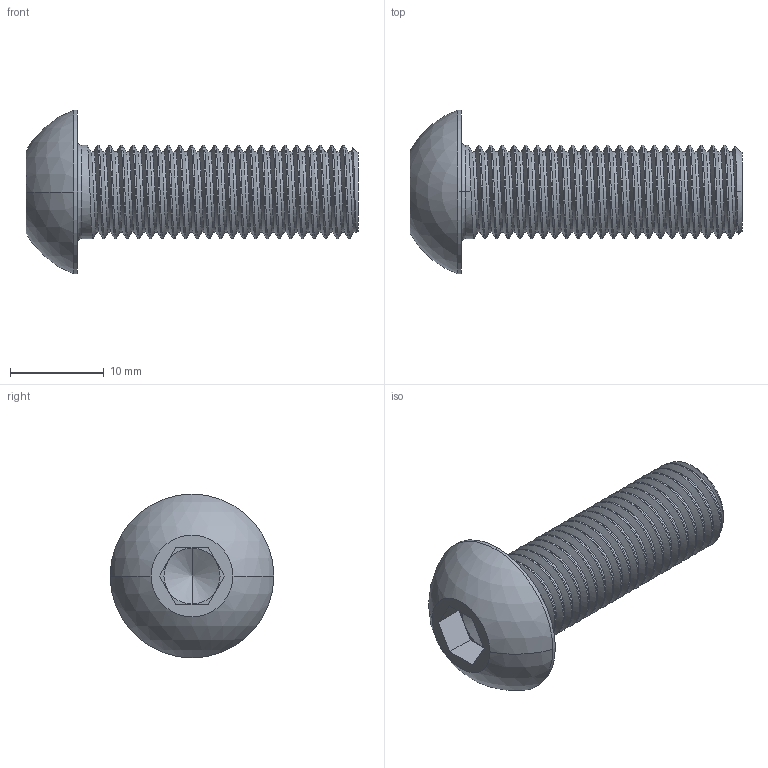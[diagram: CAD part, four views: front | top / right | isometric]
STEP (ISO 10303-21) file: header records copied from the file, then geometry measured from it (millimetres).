
FILE_DESCRIPTION (( 'STEP AP214' ), '1' );
FILE_NAME ('M10x30_ISO7380.STEP', '2026-08-28T11:57:00', ( '' ), ( '' ), 'SwSTEP 2.0', 'SolidWorks 2022', '' );
FILE_SCHEMA (( 'AUTOMOTIVE_DESIGN' ));
Length unit declared in the file: millimetre
Products named in the file (1): M10x30_ISO7380
Bounding box: 35.5 x 17.5 x 17.5 mm (x, y, z)
Volume: 2842.5 mm3; surface area: 2061.4 mm2
Topology: 1 solids, 1 shells, 76 faces, 206 edges, 132 vertices
Faces by surface type: cylinder 49, plane 16, cone 4, bspline 3, torus 2, sphere 2
Entity records: 7524 total; most frequent: CARTESIAN_POINT 5353, ORIENTED_EDGE 408, DIRECTION 278, EDGE_CURVE 204, VERTEX_POINT 132, AXIS2_PLACEMENT_3D 99, VECTOR 80, LINE 80
